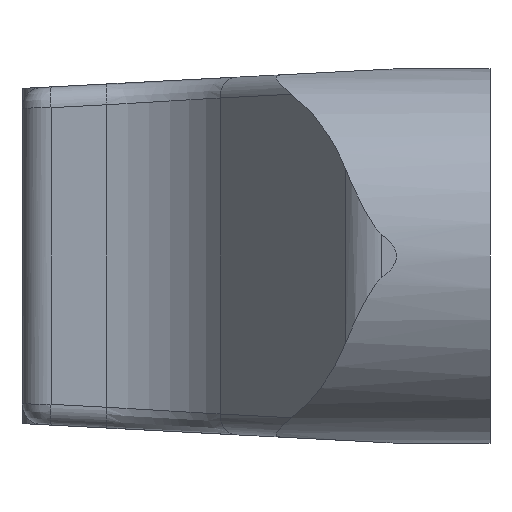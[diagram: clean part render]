
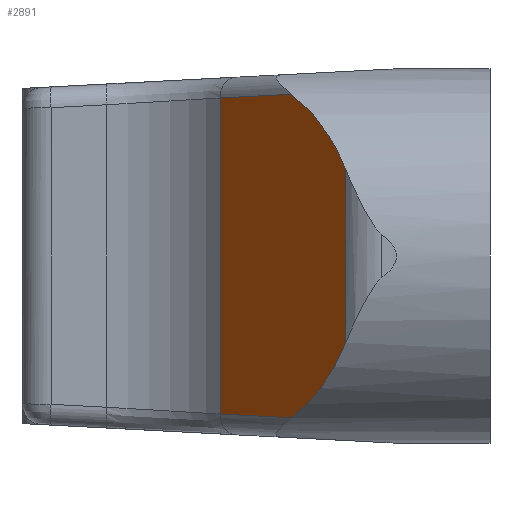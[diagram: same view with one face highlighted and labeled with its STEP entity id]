
A CAD part, left-side view. The second image highlights one B-rep face of the part: STEP entity #2891.
In plain terms, the highlighted planar face has unit normal (-0.602, 0.798, 0).
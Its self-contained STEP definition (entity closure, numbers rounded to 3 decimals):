
#9 = EDGE_CURVE ( 'NONE', #5433, #2801, #6544, .T. ) ;
#107 = EDGE_CURVE ( 'NONE', #2801, #3875, #2871, .T. ) ;
#138 = CARTESIAN_POINT ( 'NONE',  ( 4.47, 5.032, 7.777 ) ) ;
#370 = EDGE_CURVE ( 'NONE', #5605, #5433, #2766, .T. ) ;
#396 = CARTESIAN_POINT ( 'NONE',  ( 1.021, 2.431, 4.163 ) ) ;
#568 = ORIENTED_EDGE ( 'NONE', *, *, #1077, .T. ) ;
#783 = CARTESIAN_POINT ( 'NONE',  ( 9.013, 8.458, 7.597 ) ) ;
#864 = ORIENTED_EDGE ( 'NONE', *, *, #9, .F. ) ;
#992 = CARTESIAN_POINT ( 'NONE',  ( 1.021, 2.431, 9. ) ) ;
#1077 = EDGE_CURVE ( 'NONE', #7682, #3875, #2374, .T. ) ;
#1084 = CARTESIAN_POINT ( 'NONE',  ( 4.47, 5.032, 7.777 ) ) ;
#1208 = ORIENTED_EDGE ( 'NONE', *, *, #2026, .F. ) ;
#1217 = ORIENTED_EDGE ( 'NONE', *, *, #7418, .F. ) ;
#1271 = CARTESIAN_POINT ( 'NONE',  ( 4.47, 5.032, -7.777 ) ) ;
#1995 = CARTESIAN_POINT ( 'NONE',  ( 1.812, 3.028, -5.679 ) ) ;
#2026 = EDGE_CURVE ( 'NONE', #7682, #3518, #3460, .T. ) ;
#2196 = CARTESIAN_POINT ( 'NONE',  ( 9.037, 8.476, 7.596 ) ) ;
#2278 = CARTESIAN_POINT ( 'NONE',  ( 1.021, 2.431, 4.163 ) ) ;
#2374 = LINE ( 'NONE', #3881, #5553 ) ;
#2392 = DIRECTION ( 'NONE',  ( 0., 0., -1. ) ) ;
#2669 = CARTESIAN_POINT ( 'NONE',  ( 1.021, 2.431, -4.163 ) ) ;
#2766 = LINE ( 'NONE', #992, #5937 ) ;
#2801 = VERTEX_POINT ( 'NONE', #1271 ) ;
#2815 = CARTESIAN_POINT ( 'NONE',  ( 9.037, 8.476, -7.596 ) ) ;
#2869 = EDGE_LOOP ( 'NONE', ( #1217, #1208, #568, #3167, #864, #6796 ) ) ;
#2871 = LINE ( 'NONE', #5773, #7381 ) ;
#2891 = ADVANCED_FACE ( 'NONE', ( #4984 ), #3514, .F. ) ;
#3167 = ORIENTED_EDGE ( 'NONE', *, *, #107, .F. ) ;
#3274 = AXIS2_PLACEMENT_3D ( 'NONE', #3769, #3912, #3936 ) ;
#3280 = VECTOR ( 'NONE', #5366, 1000. ) ;
#3460 = LINE ( 'NONE', #783, #3280 ) ;
#3514 = PLANE ( 'NONE',  #3274 ) ;
#3518 = VERTEX_POINT ( 'NONE', #138 ) ;
#3755 = CARTESIAN_POINT ( 'NONE',  ( 1.021, 2.431, -4.163 ) ) ;
#3769 = CARTESIAN_POINT ( 'NONE',  ( 9.037, 8.476, 9. ) ) ;
#3851 = DIRECTION ( 'NONE',  ( 0., 0., -1. ) ) ;
#3875 = VERTEX_POINT ( 'NONE', #2815 ) ;
#3881 = CARTESIAN_POINT ( 'NONE',  ( 9.037, 8.476, 9. ) ) ;
#3912 = DIRECTION ( 'NONE',  ( 0.602, -0.798, 0. ) ) ;
#3936 = DIRECTION ( 'NONE',  ( 0.798, 0.602, 0. ) ) ;
#4656 = CARTESIAN_POINT ( 'NONE',  ( 2.992, 3.918, 6.916 ) ) ;
#4984 = FACE_OUTER_BOUND ( 'NONE', #2869, .T. ) ;
#5366 = DIRECTION ( 'NONE',  ( -0.798, -0.602, 0.032 ) ) ;
#5433 = VERTEX_POINT ( 'NONE', #2669 ) ;
#5553 = VECTOR ( 'NONE', #3851, 1000. ) ;
#5605 = VERTEX_POINT ( 'NONE', #396 ) ;
#5773 = CARTESIAN_POINT ( 'NONE',  ( 6.507, 6.568, -7.696 ) ) ;
#5848 = CARTESIAN_POINT ( 'NONE',  ( 1.812, 3.028, 5.679 ) ) ;
#5937 = VECTOR ( 'NONE', #2392, 1000. ) ;
#6154 = CARTESIAN_POINT ( 'NONE',  ( 4.47, 5.032, -7.777 ) ) ;
#6187 = DIRECTION ( 'NONE',  ( 0.798, 0.602, 0.032 ) ) ;
#6255 =( BOUNDED_CURVE ( )  B_SPLINE_CURVE ( 3, ( #1084, #4656, #5848, #2278 ),
 .UNSPECIFIED., .F., .T. ) 
 B_SPLINE_CURVE_WITH_KNOTS ( ( 4, 4 ),
 ( 5.24, 5.802 ),
 .UNSPECIFIED. ) 
 CURVE ( )  GEOMETRIC_REPRESENTATION_ITEM ( )  RATIONAL_B_SPLINE_CURVE ( ( 1., 0.974, 0.974, 1. ) ) 
 REPRESENTATION_ITEM ( '' )  );
#6544 =( BOUNDED_CURVE ( )  B_SPLINE_CURVE ( 3, ( #3755, #1995, #6741, #6154 ),
 .UNSPECIFIED., .F., .F. ) 
 B_SPLINE_CURVE_WITH_KNOTS ( ( 4, 4 ),
 ( 0.481, 1.043 ),
 .UNSPECIFIED. ) 
 CURVE ( )  GEOMETRIC_REPRESENTATION_ITEM ( )  RATIONAL_B_SPLINE_CURVE ( ( 1., 0.974, 0.974, 1. ) ) 
 REPRESENTATION_ITEM ( '' )  );
#6741 = CARTESIAN_POINT ( 'NONE',  ( 2.992, 3.918, -6.916 ) ) ;
#6796 = ORIENTED_EDGE ( 'NONE', *, *, #370, .F. ) ;
#7381 = VECTOR ( 'NONE', #6187, 1000. ) ;
#7418 = EDGE_CURVE ( 'NONE', #3518, #5605, #6255, .T. ) ;
#7682 = VERTEX_POINT ( 'NONE', #2196 ) ;
